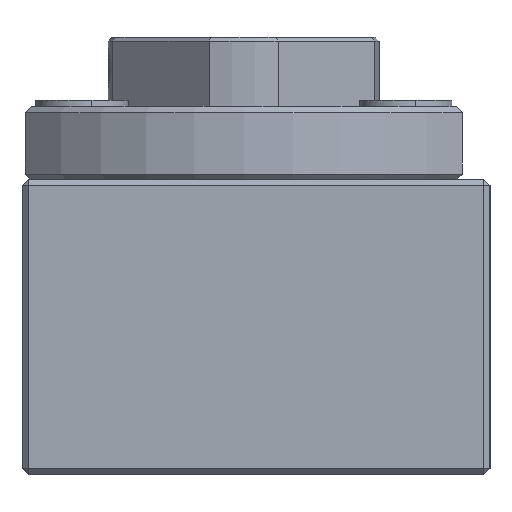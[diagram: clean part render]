
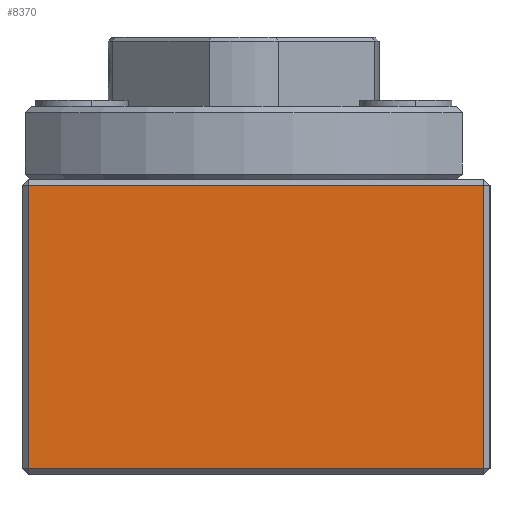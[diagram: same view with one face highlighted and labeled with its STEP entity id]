
A CAD part, left-side view. The second image highlights one B-rep face of the part: STEP entity #8370.
In plain terms, the highlighted planar face has unit normal (-1, 0, 0).
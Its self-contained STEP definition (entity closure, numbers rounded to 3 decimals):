
#80 = VERTEX_POINT ( 'NONE', #5472 ) ;
#81 = VERTEX_POINT ( 'NONE', #5471 ) ;
#86 = VERTEX_POINT ( 'NONE', #5466 ) ;
#87 = VERTEX_POINT ( 'NONE', #5465 ) ;
#1676 = AXIS2_PLACEMENT_3D ( 'NONE', #8574, #8577, #8578 ) ;
#1812 = EDGE_CURVE ( 'NONE', #80, #81, #2440, .T. ) ;
#1813 = EDGE_CURVE ( 'NONE', #81, #86, #2434, .T. ) ;
#1814 = EDGE_CURVE ( 'NONE', #86, #87, #2443, .T. ) ;
#1815 = EDGE_CURVE ( 'NONE', #87, #80, #2445, .T. ) ;
#2434 = LINE ( 'NONE', #6190, #2444 ) ;
#2440 = LINE ( 'NONE', #6184, #2442 ) ;
#2442 = VECTOR ( 'NONE', #6185, 1000. ) ;
#2443 = LINE ( 'NONE', #6195, #2446 ) ;
#2444 = VECTOR ( 'NONE', #6194, 1000. ) ;
#2445 = LINE ( 'NONE', #6197, #2448 ) ;
#2446 = VECTOR ( 'NONE', #6196, 1000. ) ;
#2448 = VECTOR ( 'NONE', #6198, 1000. ) ;
#2809 = EDGE_LOOP ( 'NONE', ( #8277, #8278, #8279, #8280 ) ) ;
#4913 = FACE_OUTER_BOUND ( 'NONE', #2809, .T. ) ;
#5465 = CARTESIAN_POINT ( 'NONE',  ( -35., -19.5, 11.5 ) ) ;
#5466 = CARTESIAN_POINT ( 'NONE',  ( -35., -19.5, -11.5 ) ) ;
#5471 = CARTESIAN_POINT ( 'NONE',  ( -35., 17.5, -11.5 ) ) ;
#5472 = CARTESIAN_POINT ( 'NONE',  ( -35., 17.5, 11.5 ) ) ;
#6184 = CARTESIAN_POINT ( 'NONE',  ( -35., 17.5, 12. ) ) ;
#6185 = DIRECTION ( 'NONE',  ( 0., 0., -1. ) ) ;
#6190 = CARTESIAN_POINT ( 'NONE',  ( -35., -20., -11.5 ) ) ;
#6194 = DIRECTION ( 'NONE',  ( 0., -1., 0. ) ) ;
#6195 = CARTESIAN_POINT ( 'NONE',  ( -35., -19.5, 12. ) ) ;
#6196 = DIRECTION ( 'NONE',  ( 0., 0., 1. ) ) ;
#6197 = CARTESIAN_POINT ( 'NONE',  ( -35., -20., 11.5 ) ) ;
#6198 = DIRECTION ( 'NONE',  ( 0., 1., 0. ) ) ;
#8277 = ORIENTED_EDGE ( 'NONE', *, *, #1812, .T. ) ;
#8278 = ORIENTED_EDGE ( 'NONE', *, *, #1813, .T. ) ;
#8279 = ORIENTED_EDGE ( 'NONE', *, *, #1814, .T. ) ;
#8280 = ORIENTED_EDGE ( 'NONE', *, *, #1815, .T. ) ;
#8370 = ADVANCED_FACE ( 'NONE', ( #4913 ), #8576, .F. ) ;
#8574 = CARTESIAN_POINT ( 'NONE',  ( -35., -20., 12. ) ) ;
#8576 = PLANE ( 'NONE',  #1676 ) ;
#8577 = DIRECTION ( 'NONE',  ( 1., 0., 0. ) ) ;
#8578 = DIRECTION ( 'NONE',  ( 0., 0., -1. ) ) ;
